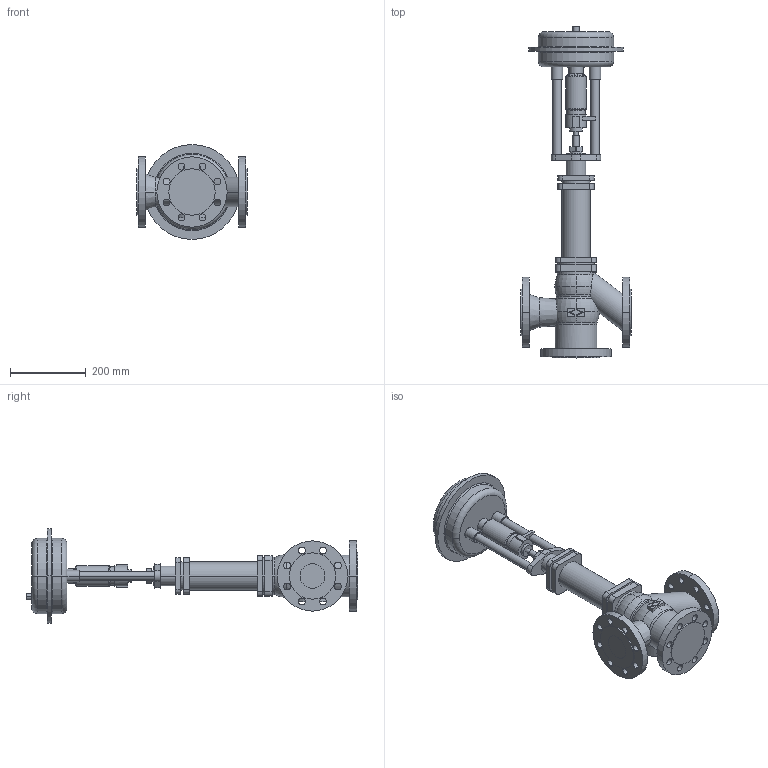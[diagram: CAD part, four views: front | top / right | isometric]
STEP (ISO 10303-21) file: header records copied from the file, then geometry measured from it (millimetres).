
FILE_DESCRIPTION(('OneSpaceDesigner STEP Export'),'2;1');
FILE_NAME('c000000749.stp','2006-09-20T11:30:32',(''),(''),'OneSpace Designer STEP processor for AP214 (Solid Model)','OneSpace Designer 13.20A 18-Aug-2005 (C) CoCreate Software GmbH','');
FILE_SCHEMA(('AUTOMOTIVE_DESIGN { 1 0 10303 214 1 1 1 1 }'));
Length unit declared in the file: millimetre
Products named in the file (2): 1; 2
Bounding box: 290 x 875 x 250 mm (x, y, z)
Volume: 9651540.3 mm3; surface area: 651250.6 mm2
Topology: 2 solids, 2 shells, 282 faces, 708 edges, 464 vertices
Faces by surface type: cylinder 140, plane 97, torus 37, cone 8
Entity records: 7810 total; most frequent: CARTESIAN_POINT 1562, ORIENTED_EDGE 1416, DIRECTION 1136, EDGE_CURVE 708, VERTEX_POINT 464, AXIS2_PLACEMENT_3D 418, EDGE_LOOP 364, VECTOR 300
